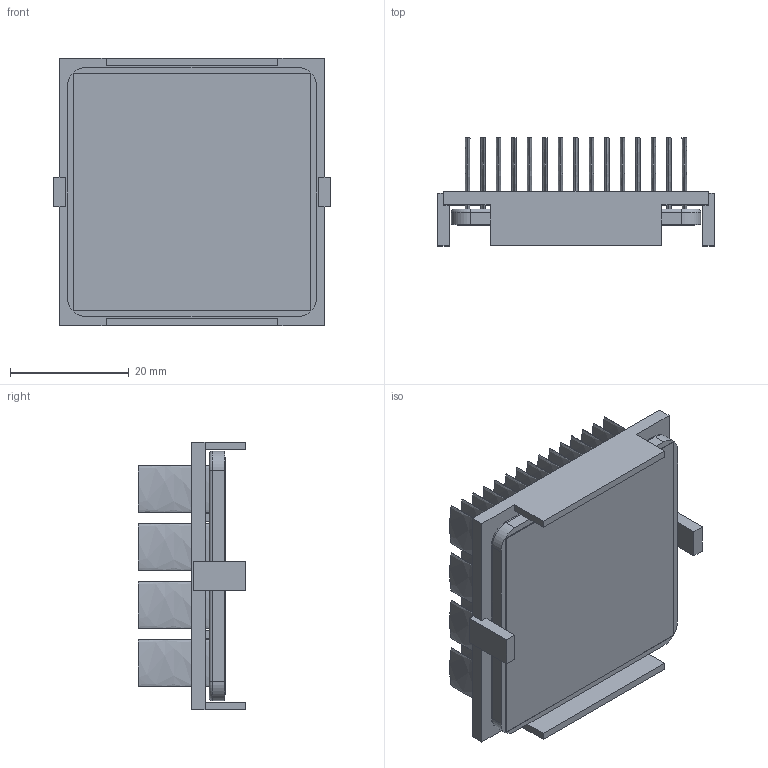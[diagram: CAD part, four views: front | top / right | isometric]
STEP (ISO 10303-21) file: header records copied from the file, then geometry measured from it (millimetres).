
FILE_DESCRIPTION (( 'STEP AP214' ), '1' );
FILE_NAME ('INM42.5001-15W-2.6Y.STEP', '2023-02-28T00:09:26', ( '' ), ( '' ), 'SwSTEP 2.0', 'SolidWorks 2020', '' );
FILE_SCHEMA (( 'AUTOMOTIVE_DESIGN' ));
Length unit declared in the file: inch
Products named in the file (1): INM42.5001-15W-2.6Y
Bounding box: 46.7 x 18.2 x 45.1 mm (x, y, z)
Volume: 10616.6 mm3; surface area: 21898.5 mm2
Topology: 3 solids, 3 shells, 258 faces, 568 edges, 376 vertices
Faces by surface type: plane 126, bspline 120, cylinder 8, torus 4
Entity records: 10728 total; most frequent: CARTESIAN_POINT 2763, ORIENTED_EDGE 1136, DIRECTION 626, EDGE_CURVE 568, VERTEX_POINT 376, EDGE_LOOP 320, VECTOR 308, LINE 308
